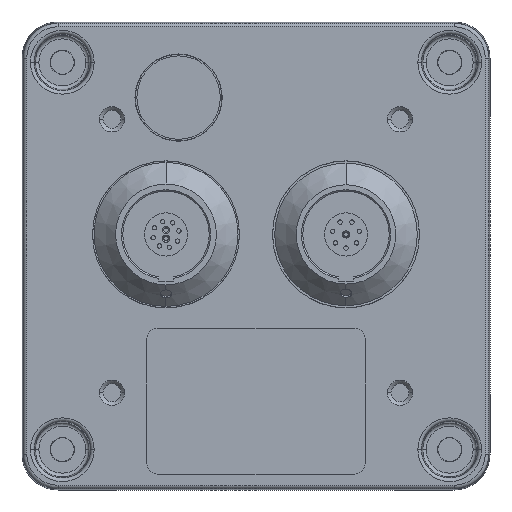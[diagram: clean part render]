
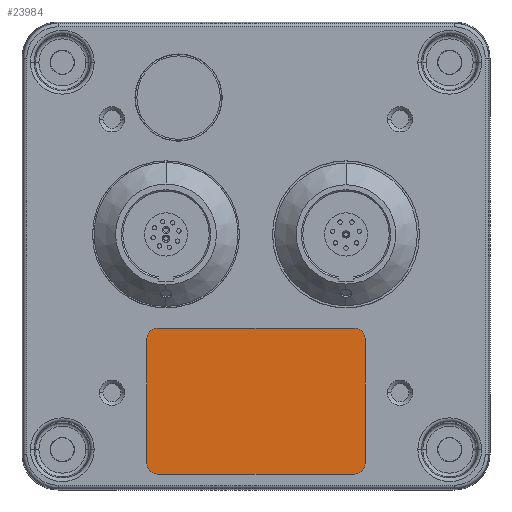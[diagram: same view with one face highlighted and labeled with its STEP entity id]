
A CAD part, front view. The second image highlights one B-rep face of the part: STEP entity #23984.
In plain terms, the highlighted planar face has unit normal (0, -1, 0).
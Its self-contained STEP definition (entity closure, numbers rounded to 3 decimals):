
#20755=CARTESIAN_POINT('',(13.65,-10.3,-11.5));
#20756=DIRECTION('',(0.,-1.,0.));
#20757=DIRECTION('',(1.,0.,0.));
#20758=AXIS2_PLACEMENT_3D('',#20755,#20756,#20757);
#20760=DIRECTION('',(0.,0.,1.));
#20761=VECTOR('',#20760,17.3);
#20762=CARTESIAN_POINT('',(15.15,-10.3,-28.8));
#20763=LINE('',#20762,#20761);
#20764=CARTESIAN_POINT('',(13.65,-10.3,-28.8));
#20765=DIRECTION('',(0.,-1.,0.));
#20766=DIRECTION('',(0.,0.,-1.));
#20767=AXIS2_PLACEMENT_3D('',#20764,#20765,#20766);
#20769=DIRECTION('',(1.,0.,0.));
#20770=VECTOR('',#20769,27.3);
#20771=CARTESIAN_POINT('',(-13.65,-10.3,-30.3));
#20772=LINE('',#20771,#20770);
#20773=CARTESIAN_POINT('',(-13.65,-10.3,-28.8));
#20774=DIRECTION('',(0.,-1.,0.));
#20775=DIRECTION('',(-1.,0.,0.));
#20776=AXIS2_PLACEMENT_3D('',#20773,#20774,#20775);
#20778=DIRECTION('',(0.,0.,-1.));
#20779=VECTOR('',#20778,17.3);
#20780=CARTESIAN_POINT('',(-15.15,-10.3,-11.5));
#20781=LINE('',#20780,#20779);
#20782=CARTESIAN_POINT('',(-13.65,-10.3,-11.5));
#20783=DIRECTION('',(0.,-1.,0.));
#20784=DIRECTION('',(0.,0.,1.));
#20785=AXIS2_PLACEMENT_3D('',#20782,#20783,#20784);
#20787=DIRECTION('',(-1.,0.,0.));
#20788=VECTOR('',#20787,27.3);
#20789=CARTESIAN_POINT('',(13.65,-10.3,-10.));
#20790=LINE('',#20789,#20788);
#21457=CARTESIAN_POINT('',(15.15,-10.3,-11.5));
#21458=CARTESIAN_POINT('',(13.65,-10.3,-10.));
#21459=VERTEX_POINT('',#21457);
#21460=VERTEX_POINT('',#21458);
#21465=CARTESIAN_POINT('',(-13.65,-10.3,-10.));
#21466=CARTESIAN_POINT('',(-15.15,-10.3,-11.5));
#21467=VERTEX_POINT('',#21465);
#21468=VERTEX_POINT('',#21466);
#21473=CARTESIAN_POINT('',(-15.15,-10.3,-28.8));
#21474=CARTESIAN_POINT('',(-13.65,-10.3,-30.3));
#21475=VERTEX_POINT('',#21473);
#21476=VERTEX_POINT('',#21474);
#21481=CARTESIAN_POINT('',(13.65,-10.3,-30.3));
#21482=CARTESIAN_POINT('',(15.15,-10.3,-28.8));
#21483=VERTEX_POINT('',#21481);
#21484=VERTEX_POINT('',#21482);
#23963=CARTESIAN_POINT('',(0.,-10.3,0.));
#23964=DIRECTION('',(0.,-1.,0.));
#23965=DIRECTION('',(-1.,0.,0.));
#23966=AXIS2_PLACEMENT_3D('',#23963,#23964,#23965);
#23967=PLANE('',#23966);
#23968=ORIENTED_EDGE('',*,*,#23954,.F.);
#23970=ORIENTED_EDGE('',*,*,#23969,.F.);
#23972=ORIENTED_EDGE('',*,*,#23971,.F.);
#23974=ORIENTED_EDGE('',*,*,#23973,.F.);
#23976=ORIENTED_EDGE('',*,*,#23975,.F.);
#23978=ORIENTED_EDGE('',*,*,#23977,.F.);
#23980=ORIENTED_EDGE('',*,*,#23979,.F.);
#23981=ORIENTED_EDGE('',*,*,#23941,.F.);
#23982=EDGE_LOOP('',(#23968,#23970,#23972,#23974,#23976,#23978,#23980,#23981));
#23983=FACE_OUTER_BOUND('',#23982,.F.);
#23984=ADVANCED_FACE('',(#23983),#23967,.T.);
#20759=CIRCLE('',#20758,1.5);
#20768=CIRCLE('',#20767,1.5);
#20777=CIRCLE('',#20776,1.5);
#20786=CIRCLE('',#20785,1.5);
#23941=EDGE_CURVE('',#21460,#21467,#20790,.T.);
#23954=EDGE_CURVE('',#21459,#21460,#20759,.T.);
#23969=EDGE_CURVE('',#21484,#21459,#20763,.T.);
#23971=EDGE_CURVE('',#21483,#21484,#20768,.T.);
#23973=EDGE_CURVE('',#21476,#21483,#20772,.T.);
#23975=EDGE_CURVE('',#21475,#21476,#20777,.T.);
#23977=EDGE_CURVE('',#21468,#21475,#20781,.T.);
#23979=EDGE_CURVE('',#21467,#21468,#20786,.T.);
